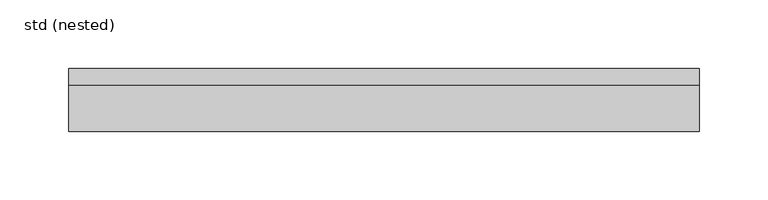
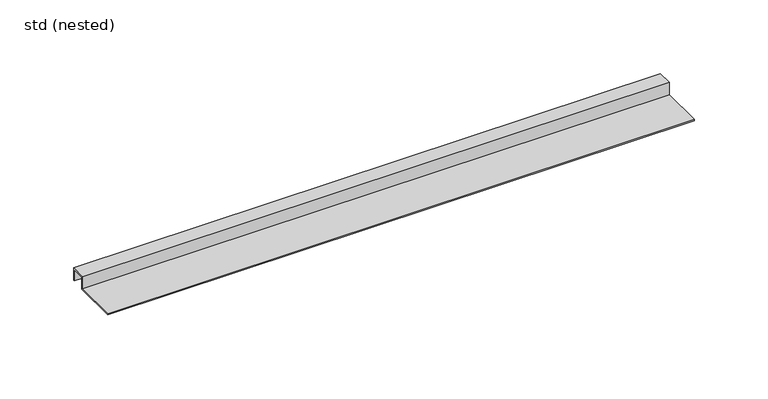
"""IFC4 building model written with IfcOpenShell, lengths in millimetres: sanitary terminal geometry, ZZZ_do not use_PF_ST_UN_ShowerStep_ACO : std (nested)."""

from ifc_helpers import new_model, si_unit, origin, place, context, project, spatial, faceted_brep, source, transform, mapped, element, save


def std_nested_bef6802e(model_context):
    return source(origin(), model_context, "Body", "Brep", [
        faceted_brep([(0.0, -1.0, -10.0), (0.0, -1.0, -1.0), (0.0, -11.0004219, -1.0), (0.0, -11.0004219, -11.0), (0.0, -46.0004219, -11.0), (0.0, -46.0004219, -10.0), (0.0, -12.0076915, -10.0), (0.0, -12.0076915, 0.0), (0.0, 0.0, 0.0), (0.0, 0.0, -10.0), (460.0, 0.0, -19.2929293), (460.0, -1.0, -19.2929293), (460.0, 0.0, 0.0), (460.0, -12.0076915, 0.0), (460.0, -12.0076915, -10.0), (460.0, -46.0004219, -10.0), (460.0, -46.0004219, -11.0), (460.0, -11.0004219, -11.0), (460.0, -11.0004219, -1.0), (460.0, -1.0, -1.0)], [[[0, 1, 2, 3, 4, 5, 6, 7, 8, 9]], [[0, 9, 10, 11]], [[9, 8, 12, 10]], [[8, 7, 13, 12]], [[7, 6, 14, 13]], [[6, 5, 15, 14]], [[5, 4, 16, 15]], [[4, 3, 17, 16]], [[3, 2, 18, 17]], [[2, 1, 19, 18]], [[1, 0, 11, 19]], [[11, 10, 12, 13, 14, 15, 16, 17, 18, 19]]]),
    ])


if __name__ == "__main__":
    model = new_model("IFC4")
    model_context = context("Model", 3, world=origin())
    ifc_project = project(units=[si_unit("LENGTHUNIT", "METRE", prefix="MILLI")], contexts=[model_context])
    site = spatial("IfcSite", under=ifc_project)
    building = spatial("IfcBuilding", under=site)
    placement = place(None, origin())
    std_nested_shape = std_nested_bef6802e(model_context)
    element("IfcSanitaryTerminal", 1, ObjectType="ZZZ_do not use_PF_ST_UN_ShowerStep_ACO : std (nested)", at=placement, inside=building, context=model_context, shape_type="MappedRepresentation", body=[
        mapped(std_nested_shape, transform((0.0, 0.0, 0.0), x_axis=(1.0, 0.0, 0.0), y_axis=(0.0, 1.0, 0.0), z_axis=(0.0, 0.0, 1.0))),
    ])
    save(model, "model.ifc")
